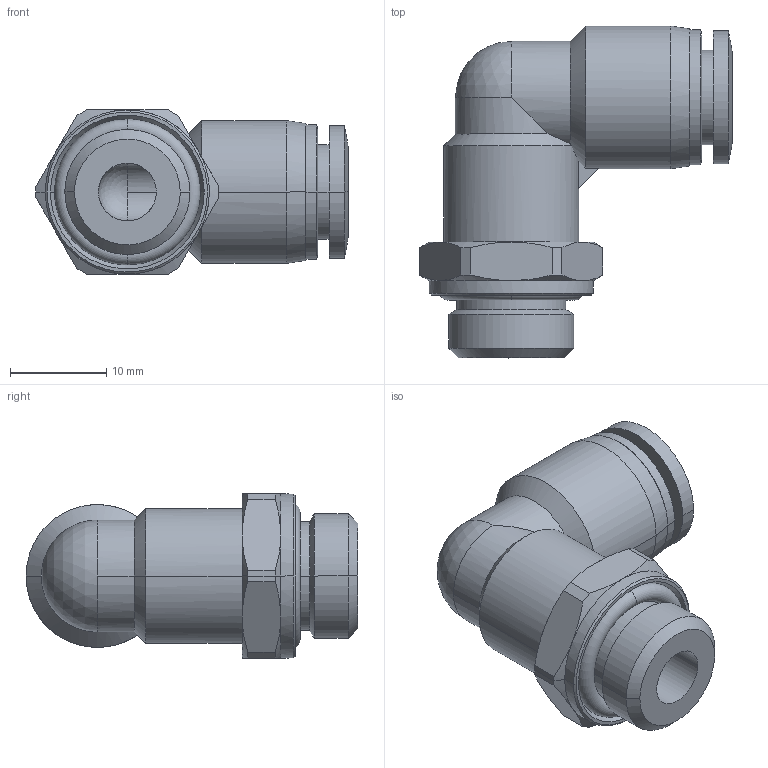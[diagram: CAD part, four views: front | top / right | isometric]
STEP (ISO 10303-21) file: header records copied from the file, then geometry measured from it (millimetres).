
FILE_DESCRIPTION (( 'STEP AP203' ), '1' );
FILE_NAME ('FL08-02.STEP', '2020-04-28T13:42:33', ( '' ), ( '' ), 'SwSTEP 2.0', 'SolidWorks 2019', '' );
FILE_SCHEMA (( 'CONFIG_CONTROL_DESIGN' ));
Length unit declared in the file: millimetre
Products named in the file (1): FL08-02
Bounding box: 32.4 x 34.4 x 17 mm (x, y, z)
Surface area: 4126.6 mm2 (no closed solid volume)
Topology: 0 solids, 4 shells, 94 faces, 227 edges, 141 vertices
Faces by surface type: cylinder 35, cone 32, plane 19, torus 4, bspline 2, sphere 2
Entity records: 4575 total; most frequent: CARTESIAN_POINT 2707, ORIENTED_EDGE 430, DIRECTION 239, EDGE_CURVE 223, B_SPLINE_CURVE_WITH_KNOTS 168, VERTEX_POINT 139, EDGE_LOOP 104, AXIS2_PLACEMENT_3D 97
